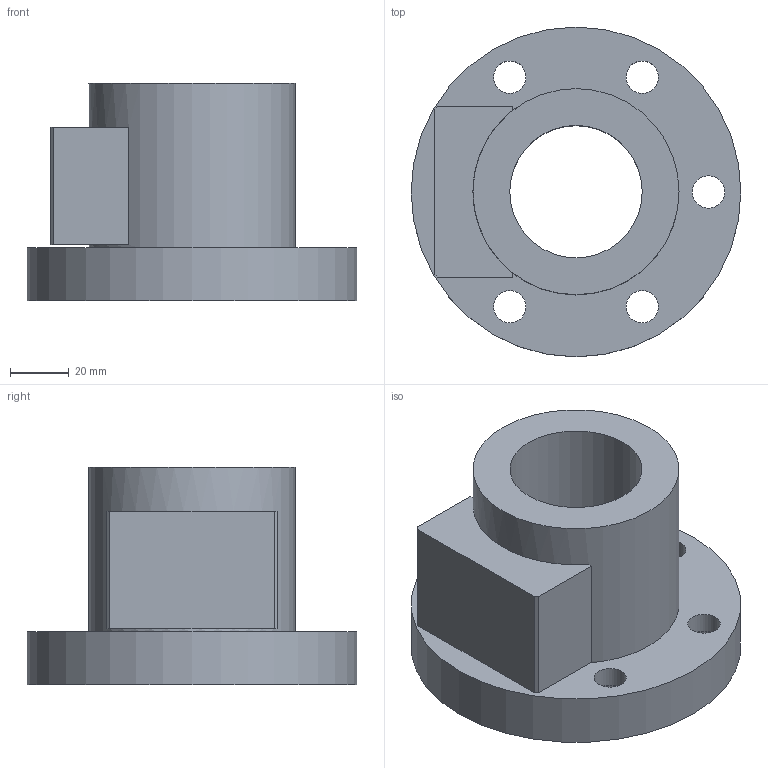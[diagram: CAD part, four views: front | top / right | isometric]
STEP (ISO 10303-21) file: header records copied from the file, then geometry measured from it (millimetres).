
FILE_DESCRIPTION(/* description */ (''),/* implementation_level */ '2;1');
FILE_NAME(/* name */ '45-10B1',/* time_stamp */ '2006-07-31T11:51:44+08:00',/* author */ (''),/* organization */ (''),/* preprocessor_version */ 'ST-DEVELOPER v9',/* originating_system */ 'UGS - NX 4.0',/* authorisation */ '');
FILE_SCHEMA (('CONFIG_CONTROL_DESIGN'));
Length unit declared in the file: millimetre
Products named in the file (1): 45-10B1
Bounding box: 112 x 112 x 74 mm (x, y, z)
Volume: 299237.7 mm3; surface area: 52905.5 mm2
Topology: 1 solids, 1 shells, 30 faces, 67 edges, 46 vertices
Faces by surface type: plane 17, cylinder 13
Full cylindrical faces by diameter (mm): 11 x5, 17.5 x5, 45 x1, 70 x1, 112 x1
Entity records: 860 total; most frequent: DIRECTION 140, CARTESIAN_POINT 123, ORIENTED_EDGE 100, EDGE_LOOP 62, AXIS2_PLACEMENT_3D 59, EDGE_CURVE 50, FACE_BOUND 45, VERTEX_POINT 42
